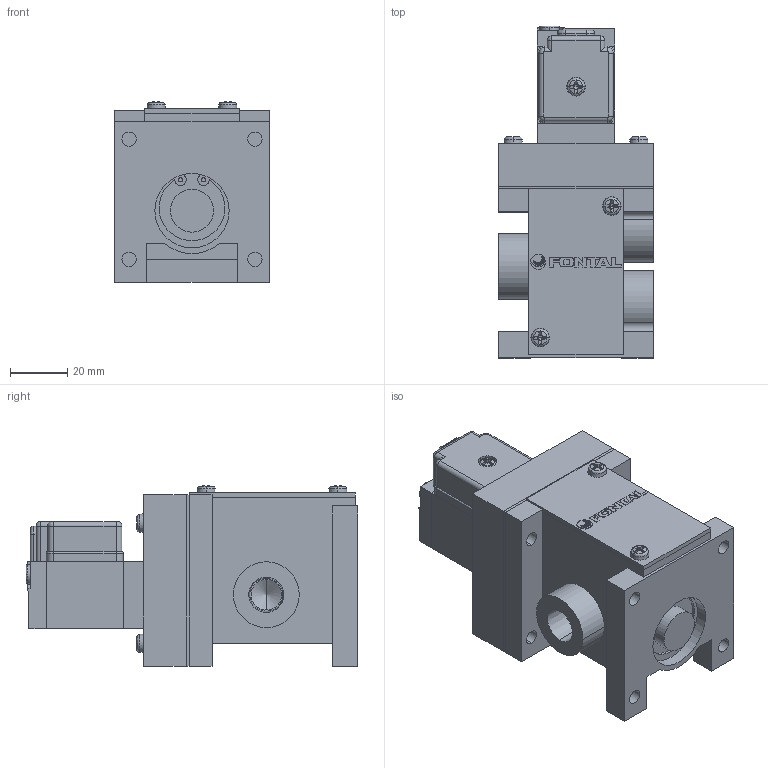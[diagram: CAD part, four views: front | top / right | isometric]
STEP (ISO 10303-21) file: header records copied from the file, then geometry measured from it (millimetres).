
FILE_DESCRIPTION (( 'STEP AP203' ), '1' );
FILE_NAME ('PMS2308#-02-#G#.STEP', '2016-03-09T07:49:28', ( 'Sam Lin' ), ( '' ), 'SwSTEP 2.0', 'SolidWorks 2013', '' );
FILE_SCHEMA (( 'CONFIG_CONTROL_DESIGN' ));
Length unit declared in the file: metre
Products named in the file (15): PMS2308-3; PMS2308-1(1-4); PMS2308-4; PMS2308-5; PM06-C3-M4_1; PMS2308-6; PMS2306-5; PMS2308#-02-#G#; PM06-C1_1; PM06-C4_1; PM06-C6-M3_1; PMS2308-2; PM06-C5_1; PM08-MARK; PM06-G1
Assembly tree (21 placements, depth 2):
  PMS2308#-02-#G#
    PMS2308-2
    PM08-MARK
    PMS2308-3
    PMS2308-4
    PM06-C3-M4_1  x7
    PMS2306-5
    PM06-C1_1
    PM06-C4_1
    PM06-C6-M3_1  x2
    PM06-C5_1
    PM06-G1
    PMS2308-1(1-4)
    PMS2308-5
    PMS2308-6
Bounding box: 54 x 116 x 63.05 mm (x, y, z)
Volume: 215322.4 mm3; surface area: 61914.9 mm2
Topology: 27 solids, 27 shells, 656 faces, 1613 edges, 1010 vertices
Faces by surface type: plane 341, cylinder 148, cone 89, bspline 74, torus 4
Entity records: 14930 total; most frequent: CARTESIAN_POINT 3224, DIRECTION 2093, ORIENTED_EDGE 2026, EDGE_CURVE 1013, AXIS2_PLACEMENT_3D 752, VERTEX_POINT 653, LINE 589, VECTOR 589
